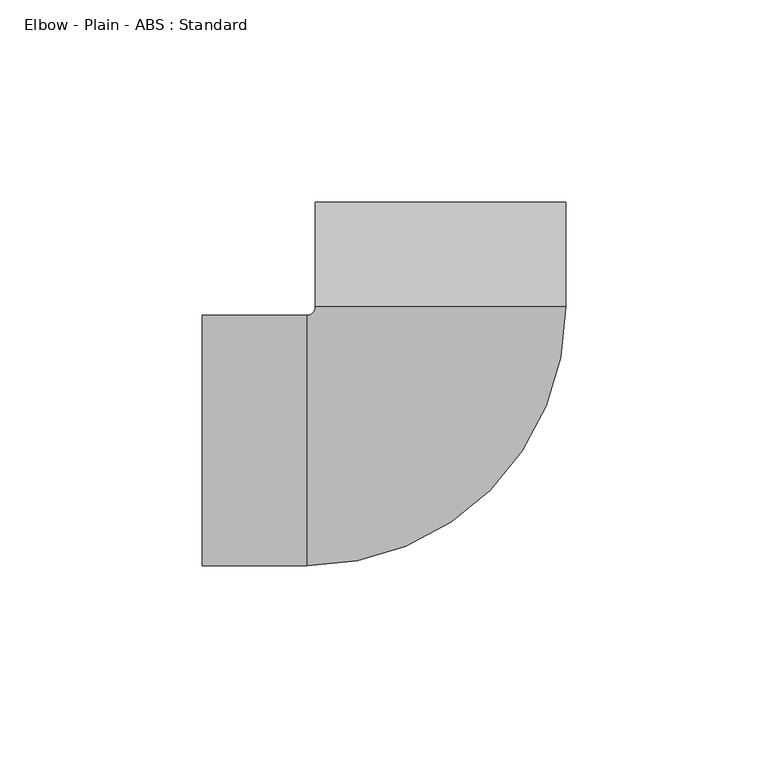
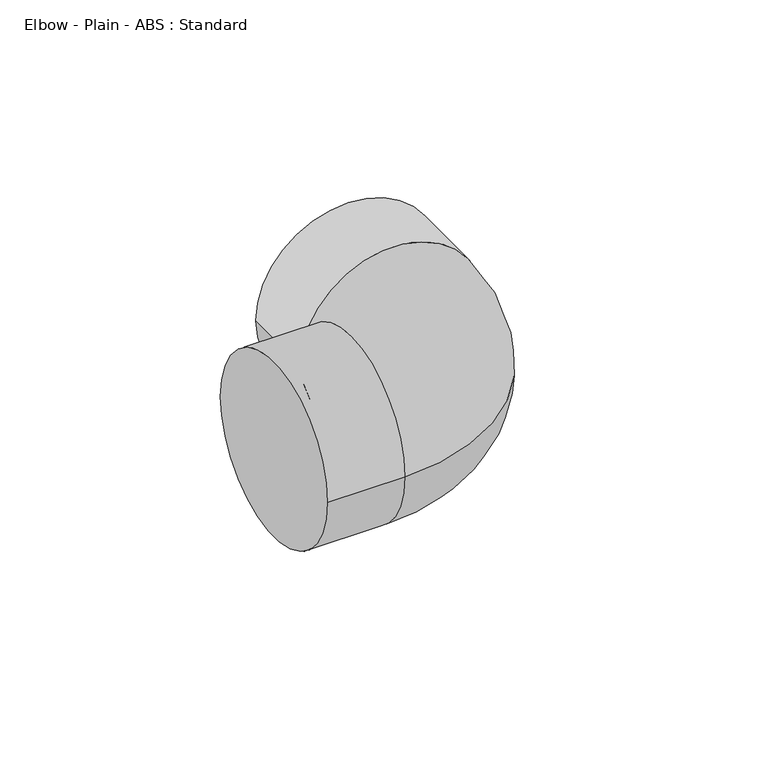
"""IFC4 building model written with IfcOpenShell, lengths in millimetres: pipe fitting geometry, Elbow - Plain - ABS : Standard."""

from ifc_helpers import new_model, si_unit, point, frame, origin, place, context, project, spatial, circle_curve, ellipse_curve, trimmed, source, transform, mapped, element, save
from ifc_brep_helpers import plane_surface, cylinder_surface, revolved_surface, advanced_brep


def elbow_plain_abs_standard_293f5988(model_context):
    return source(origin(), model_context, "Body", "AdvancedBrep", [
        advanced_brep(
        [(-59.0, -31.0, 0.0), (-59.0, 31.0, 0.0), (-33.08, -31.0, 0.0), (-33.08, 31.0, 0.0), (-31.0, 33.08, 0.0), (31.0, 33.08, 0.0), (31.0, 59.0, 0.0), (-31.0, 59.0, 0.0)],
        [
            (0, 1, circle_curve(frame((-59.0, 0.0, 0.0), z_axis=(-1.0, 0.0, 0.0), x_axis=(0.0, 1.0, 0.0)), 31.0)),
            (1, 0, circle_curve(frame((-59.0, 0.0, 0.0), z_axis=(-1.0, 0.0, 0.0), x_axis=(0.0, 1.0, 0.0)), 31.0)),
            (0, 2),
            (2, 3, circle_curve(frame((-33.08, 0.0, 0.0), z_axis=(-1.0, 0.0, 0.0), x_axis=(0.0, 1.0, 0.0)), 31.0)),
            (3, 1),
            (3, 2, circle_curve(frame((-33.08, 0.0, 0.0), z_axis=(-1.0, 0.0, 0.0), x_axis=(0.0, 1.0, 0.0)), 31.0)),
            (4, 3, circle_curve(frame((-33.08, 33.08, 0.0), z_axis=(0.0, 0.0, -1.0), x_axis=(0.0, -1.0, 0.0)), 2.08)),
            (2, 5, circle_curve(frame((-33.08, 33.08, 0.0), z_axis=(0.0, 0.0, 1.0), x_axis=(0.0, -1.0, 0.0)), 64.08)),
            (5, 4, circle_curve(frame((0.0, 33.08, 0.0), z_axis=(0.0, -1.0, 0.0), x_axis=(-1.0, 0.0, 0.0)), 31.0)),
            (4, 5, circle_curve(frame((0.0, 33.08, 0.0), z_axis=(0.0, -1.0, 0.0), x_axis=(-1.0, 0.0, 0.0)), 31.0)),
            (6, 7, circle_curve(frame((0.0, 59.0, 0.0), z_axis=(0.0, 1.0, 0.0), x_axis=(-1.0, 0.0, 0.0)), 31.0)),
            (7, 6, circle_curve(frame((0.0, 59.0, 0.0), z_axis=(0.0, 1.0, 0.0), x_axis=(-1.0, 0.0, 0.0)), 31.0)),
            (5, 6),
            (7, 4),
        ],
        [
            plane_surface(frame((-59.0, 0.0, 0.0), z_axis=(-1.0, 0.0, 0.0), x_axis=(0.0, 0.0, 1.0))),
            cylinder_surface(frame((-59.0, 0.0, 0.0), z_axis=(-1.0, 0.0, 0.0), x_axis=(0.0, 1.0, 0.0)), 31.0),
            revolved_surface(trimmed(ellipse_curve(frame((-33.08, 0.0, 0.0), z_axis=(-1.0, 0.0, 0.0), x_axis=(0.0, 1.0, 0.0)), 31.0, 31.0), [point((-33.08, -31.0, 0.0))], [point((-33.08, 31.0, 0.0))], True, "CARTESIAN"), (-33.08, 33.08, 0.0), (0.0, 0.0, 1.0)),
            revolved_surface(trimmed(ellipse_curve(frame((-33.08, 0.0, 0.0), z_axis=(-1.0, 0.0, 0.0), x_axis=(0.0, 1.0, 0.0)), 31.0, 31.0), [point((-33.08, 31.0, 0.0))], [point((-33.08, -31.0, 0.0))], True, "CARTESIAN"), (-33.08, 33.08, 0.0), (0.0, 0.0, 1.0)),
            plane_surface(frame((0.0, 59.0, 0.0), z_axis=(0.0, 1.0, 0.0), x_axis=(0.0, 0.0, 1.0))),
            cylinder_surface(frame((0.0, 33.08, 0.0), z_axis=(0.0, -1.0, 0.0), x_axis=(-1.0, 0.0, 0.0)), 31.0),
        ],
        [
            (0, [[1, 2]]),
            (1, [[-1, 3, 4, 5]]),
            (1, [[-2, -5, 6, -3]]),
            (2, [[7, -4, 8, 9]]),
            (3, [[-8, -6, -7, 10]]),
            (4, [[11, 12]]),
            (5, [[-9, 13, -12, 14]]),
            (5, [[-10, -14, -11, -13]]),
        ],
    ),
    ])


if __name__ == "__main__":
    model = new_model("IFC4")
    model_context = context("Model", 3, world=origin())
    ifc_project = project(units=[si_unit("LENGTHUNIT", "METRE", prefix="MILLI")], contexts=[model_context])
    site = spatial("IfcSite", under=ifc_project)
    building = spatial("IfcBuilding", under=site)
    placement = place(None, origin())
    elbow_plain_abs_standard_shape = elbow_plain_abs_standard_293f5988(model_context)
    element("IfcPipeFitting", 1, ObjectType="Elbow - Plain - ABS : Standard", at=placement, inside=building, context=model_context, shape_type="MappedRepresentation", body=[
        mapped(elbow_plain_abs_standard_shape, transform((0.0, 0.0, 0.0), x_axis=(1.0, 0.0, 0.0), y_axis=(0.0, 1.0, 0.0), z_axis=(0.0, 0.0, 1.0))),
    ])
    save(model, "model.ifc")
